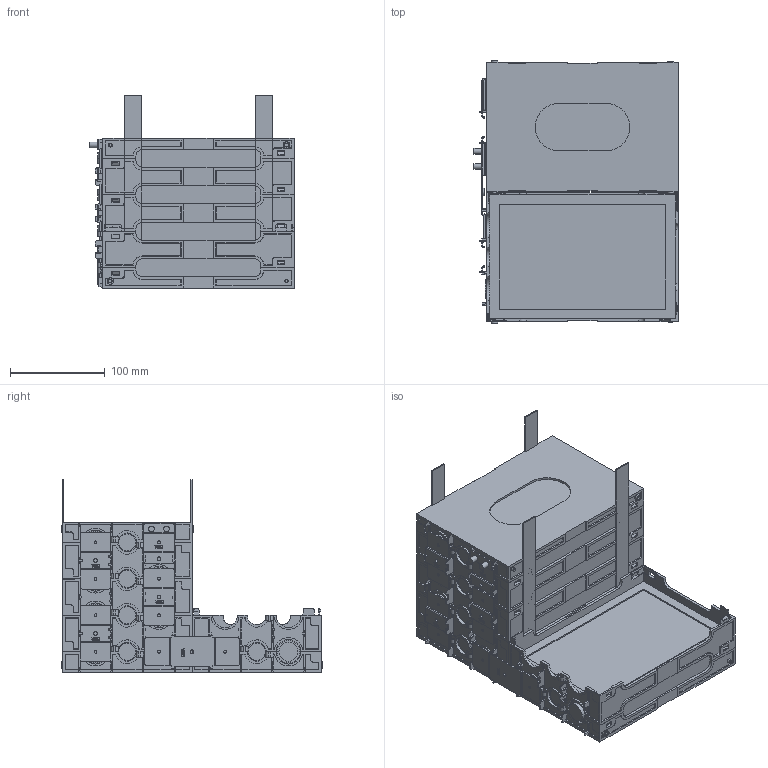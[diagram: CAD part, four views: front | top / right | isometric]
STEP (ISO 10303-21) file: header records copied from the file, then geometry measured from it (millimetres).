
FILE_DESCRIPTION(/* description */ (''),/* implementation_level */ '2;1');
FILE_NAME(/* name */ '37-130-195-产品图.stp',/* time_stamp */ '2022-08-03T14:13:02+08:00',/* author */ (''),/* organization */ (''),/* preprocessor_version */ 'ST-DEVELOPER v16.7',/* originating_system */ 'SIEMENS PLM Software NX 12.0',/* authorisation */ '');
FILE_SCHEMA (('AUTOMOTIVE_DESIGN { 1 0 10303 214 3 1 1 1 }'));
Products named in the file (1): CX-1386-CP
Bounding box: 215.65 x 276.6 x 203 mm (x, y, z)
Volume: 5181563.1 mm3; surface area: 890048.7 mm2
Topology: 22 solids, 22 shells, 3190 faces, 9184 edges, 6077 vertices
Faces by surface type: plane 2479, cylinder 561, cone 84, extrusion 40, sphere 20, torus 6
Full cylindrical faces by diameter (mm): 3 x8, 4 x5, 6 x2, 8 x5, 18 x5, 20 x11, 23.7 x10
Entity records: 107290 total; most frequent: CARTESIAN_POINT 20873, ORIENTED_EDGE 18120, DIRECTION 16691, EDGE_CURVE 9060, VECTOR 7403, LINE 7363, VERTEX_POINT 6053, AXIS2_PLACEMENT_3D 4644
